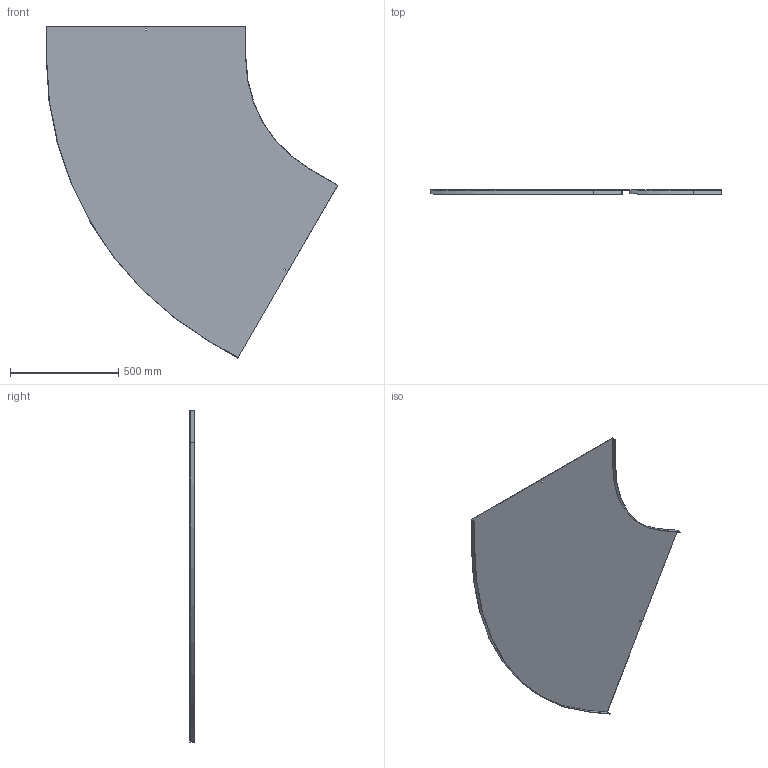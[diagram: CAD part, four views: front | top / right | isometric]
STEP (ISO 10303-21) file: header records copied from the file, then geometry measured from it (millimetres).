
FILE_DESCRIPTION (( 'STEP AP214' ), '1' );
FILE_NAME ('13N6P900.step', '2025-02-21T13:36:24', ( '' ), ( '' ), 'SwSTEP 2.0', 'SolidWorks 2023', '' );
FILE_SCHEMA (( 'AUTOMOTIVE_DESIGN' ));
Length unit declared in the file: millimetre
Products named in the file (1): 13N6P900
Bounding box: 1347.15 x 20 x 1534 mm (x, y, z)
Volume: 2015187.2 mm3; surface area: 2694087.9 mm2
Topology: 1 solids, 1 shells, 26 faces, 72 edges, 48 vertices
Faces by surface type: plane 22, cylinder 4
Entity records: 855 total; most frequent: CARTESIAN_POINT 147, ORIENTED_EDGE 144, DIRECTION 134, EDGE_CURVE 72, LINE 64, VECTOR 64, VERTEX_POINT 48, AXIS2_PLACEMENT_3D 35
